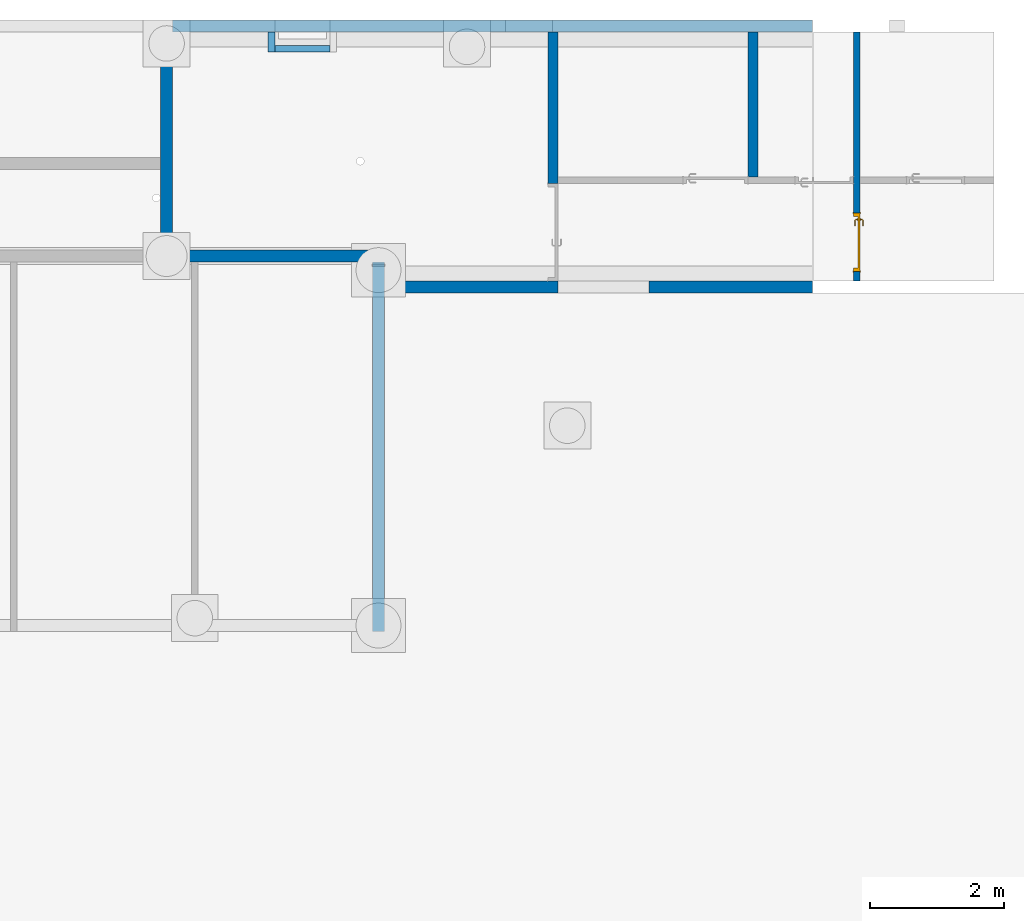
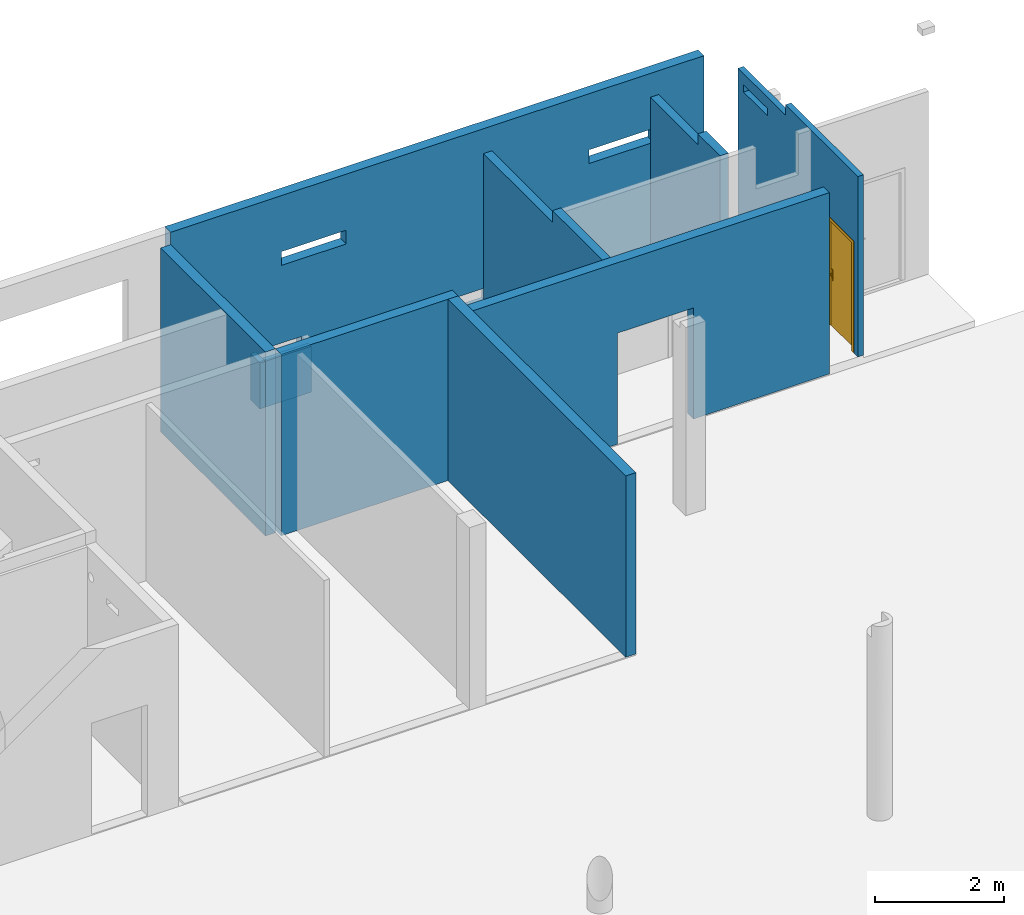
# One storey, part 7 of 29: 10 walls, 1 door, 12 openings.
"""IFC2X3 building model written with IfcOpenShell, lengths in centimetres."""

from ifc_helpers import new_model, entity, si_unit, converted_unit, derived_unit, direction, frame, frame_2d, origin, place, context, subcontext, project, spatial, polyline, rectangle, circle, extrude, clip, bounded_halfspace, faceted_brep, source, transform, mapped, material, material_list, layer, layer_set, layer_usage, type_object, type_shapes, element, fill, save


model = new_model("IFC2X3")

# Units and contexts
model_context = context("Model", 3, precision=0.001, world=origin(), true_north=direction((6.12303176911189e-17, 1.0)))
body_context = subcontext(model_context, "Body", "Model", "MODEL_VIEW")
ifc_project = project(units=[si_unit("LENGTHUNIT", "METRE", prefix="CENTI"), si_unit("AREAUNIT", "SQUARE_METRE"), si_unit("VOLUMEUNIT", "CUBIC_METRE"), converted_unit("PLANEANGLEUNIT", "DEGREE", entity("IfcRatioMeasure", 0.0174532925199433), si_unit("PLANEANGLEUNIT", "RADIAN"), dimensions=[0, 0, 0, 0, 0, 0, 0]), si_unit("MASSUNIT", "GRAM", prefix="KILO"), derived_unit("MASSDENSITYUNIT", [(si_unit("MASSUNIT", "GRAM", prefix="KILO"), 1), (si_unit("LENGTHUNIT", "METRE"), -3)]), si_unit("TIMEUNIT", "SECOND"), si_unit("FREQUENCYUNIT", "HERTZ"), si_unit("THERMODYNAMICTEMPERATUREUNIT", "DEGREE_CELSIUS"), derived_unit("THERMALTRANSMITTANCEUNIT", [(si_unit("MASSUNIT", "GRAM", prefix="KILO"), 1), (si_unit("THERMODYNAMICTEMPERATUREUNIT", "KELVIN"), -1), (si_unit("TIMEUNIT", "SECOND"), -3)]), derived_unit("VOLUMETRICFLOWRATEUNIT", [(si_unit("LENGTHUNIT", "METRE"), 3), (si_unit("TIMEUNIT", "SECOND"), -1)]), si_unit("ELECTRICCURRENTUNIT", "AMPERE"), si_unit("ELECTRICVOLTAGEUNIT", "VOLT"), si_unit("POWERUNIT", "WATT"), si_unit("FORCEUNIT", "NEWTON"), si_unit("ILLUMINANCEUNIT", "LUX"), si_unit("LUMINOUSFLUXUNIT", "LUMEN"), si_unit("LUMINOUSINTENSITYUNIT", "CANDELA"), derived_unit("USERDEFINED", [(si_unit("MASSUNIT", "GRAM", prefix="KILO"), -1), (si_unit("LENGTHUNIT", "METRE"), -2), (si_unit("TIMEUNIT", "SECOND"), 3), (si_unit("LUMINOUSFLUXUNIT", "LUMEN"), 1)]), derived_unit("LINEARVELOCITYUNIT", [(si_unit("LENGTHUNIT", "METRE"), 1), (si_unit("TIMEUNIT", "SECOND"), -1)]), si_unit("PRESSUREUNIT", "PASCAL"), derived_unit("USERDEFINED", [(si_unit("LENGTHUNIT", "METRE"), -2), (si_unit("MASSUNIT", "GRAM", prefix="KILO"), 1), (si_unit("TIMEUNIT", "SECOND"), -2)])], contexts=[model_context])

# Site, building, storey
site_placement = place(None, origin())
site = spatial("IfcSite", under=ifc_project, at=site_placement, Name="Default", CompositionType="ELEMENT")
building_placement = place(site_placement, origin())
building = spatial("IfcBuilding", under=site, at=building_placement, Name="CAGE 03", CompositionType="ELEMENT")
storey_placement = place(building_placement, frame((0.0, 0.0, -26.0)))
storey = spatial("IfcBuildingStorey", under=building, at=storey_placement, Name="+3.74", CompositionType="ELEMENT", Elevation=-26.0000000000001)

# Wall, openings
ifc_material_1 = material(Name="Béton, C25/30")
ifc_layer_1 = layer(ifc_material_1, 18.0)
ifc_layer_set_1 = layer_set([ifc_layer_1], Name="Mur de base:Voile BA 18")
ifc_layer_usage_1 = layer_usage(ifc_layer_set_1, "AXIS2", "POSITIVE", -9.0)
wall_type_1 = type_object("IfcWallType", Name="Mur de base:Voile BA 18", PredefinedType="STANDARD", material=ifc_layer_set_1)
wall_1_placement = place(storey_placement, frame((8787.36582014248, 5284.66066607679, 0.0), z_axis=(0.0, 0.0, 1.0), x_axis=(-1.0, 0.0, 0.0)))
wall_1 = element("IfcWallStandardCase", 1, at=wall_1_placement, inside=storey, type_object=wall_type_1, material=ifc_layer_usage_1, Name="Mur de base:Voile BA 18", ObjectType="Mur de base:Voile BA 18", context=body_context, shape_type="SweptSolid", body=[
    extrude(rectangle(XDim=953.999999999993, YDim=18.0000000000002, at=frame_2d((26.1666666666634, -4.50000000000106), x_axis=(1.0, 0.0))), frame((450.833333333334, 4.49999999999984, 0.0)), (0.0, 0.0, 1.0), 366.0),
])
opening_1_placement = place(storey_placement, frame((8787.36582014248, 5284.66066607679, 0.0), z_axis=(0.0, 0.0, 1.0), x_axis=(-1.0, 0.0, 0.0)))
element("IfcOpeningElement", 2, at=opening_1_placement, cuts=wall_1, Name="Mur de base:Voile BA 18:1", ObjectType="Opening", context=body_context, shape_type="SweptSolid", body=[
    extrude(circle(Radius=4.0, at=frame_2d((0.0, 2.70716782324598e-14), x_axis=(1.0, 0.0))), frame((867.658094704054, -9.0, 162.999461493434), z_axis=(0.0, 1.0, 0.0), x_axis=(1.0, 0.0, 0.0)), (0.0, 0.0, 1.0), 18.0000000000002),
])
opening_2_placement = place(storey_placement, frame((8787.36582014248, 5284.66066607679, 0.0), z_axis=(0.0, 0.0, 1.0), x_axis=(-1.0, 0.0, 0.0)))
element("IfcOpeningElement", 3, at=opening_2_placement, cuts=wall_1, Name="Mur de base:Voile BA 18:2", ObjectType="Opening", context=body_context, shape_type="SweptSolid", body=[
    extrude(rectangle(XDim=30.0, YDim=70.0000000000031, at=frame_2d((0.0, 0.0), x_axis=(0.0, 1.0))), frame((422.500000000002, -9.0, 49.0), z_axis=(0.0, 1.0, 0.0), x_axis=(1.0, 0.0, 0.0)), (0.0, 0.0, 1.0), 18.0000000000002),
])
opening_3_placement = place(storey_placement, frame((8787.36582014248, 5284.66066607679, 0.0), z_axis=(0.0, 0.0, 1.0), x_axis=(-1.0, 0.0, 0.0)))
element("IfcOpeningElement", 4, at=opening_3_placement, cuts=wall_1, Name="Mur de base:Voile BA 18:3", ObjectType="Opening", context=body_context, shape_type="SweptSolid", body=[
    extrude(rectangle(XDim=82.0, YDim=81.9999999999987, at=frame_2d((0.0, 0.0), x_axis=(0.0, 1.0))), frame((760.499999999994, -9.0, 46.0), z_axis=(0.0, 1.0, 0.0), x_axis=(1.0, 0.0, 0.0)), (0.0, 0.0, 1.0), 18.0000000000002),
])
opening_4_placement = place(storey_placement, frame((8787.36582014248, 5284.66066607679, 0.0), z_axis=(0.0, 0.0, 1.0), x_axis=(-1.0, 0.0, 0.0)))
element("IfcOpeningElement", 5, at=opening_4_placement, cuts=wall_1, Name="Mur de base:Voile BA 18:4", ObjectType="Opening", context=body_context, shape_type="SweptSolid", body=[
    extrude(rectangle(XDim=25.9999999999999, YDim=116.0, at=frame_2d((0.0, 8.66862137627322e-13), x_axis=(1.0, 0.0))), frame((148.0, -9.0, 247.0), z_axis=(0.0, 1.0, 0.0), x_axis=(0.0, 0.0, -1.0)), (0.0, 0.0, 1.0), 18.0000000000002),
])
opening_5_placement = place(storey_placement, frame((8787.36582014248, 5284.66066607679, 0.0), z_axis=(0.0, 0.0, 1.0), x_axis=(-1.0, 0.0, 0.0)))
element("IfcOpeningElement", 6, at=opening_5_placement, cuts=wall_1, Name="Mur de base:Voile BA 18:5", ObjectType="Opening", context=body_context, shape_type="SweptSolid", body=[
    extrude(rectangle(XDim=25.9999999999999, YDim=116.0, at=frame_2d((0.0, 8.66862137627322e-13), x_axis=(1.0, 0.0))), frame((698.0, -9.0, 247.0), z_axis=(0.0, 1.0, 0.0), x_axis=(0.0, 0.0, -1.0)), (0.0, 0.0, 1.0), 18.0000000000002),
])

ifc_layer_usage_2 = layer_usage(ifc_layer_set_1, "AXIS2", "NEGATIVE", 9.0)
wall_2_placement = place(storey_placement, frame((8149.36582014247, 4895.6606660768, 0.0)))
wall_2 = element("IfcWallStandardCase", 7, at=wall_2_placement, inside=storey, type_object=wall_type_1, material=ifc_layer_usage_2, Name="Mur de base:Voile BA 18", ObjectType="Mur de base:Voile BA 18", context=body_context, shape_type="SweptSolid", body=[
    extrude(rectangle(XDim=638.000000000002, YDim=17.9999999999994, at=frame_2d((319.000000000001, 4.70734562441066e-14), x_axis=(-1.0, 0.0))), origin(), (0.0, 0.0, 1.0), 343.0),
])
opening_6_placement = place(wall_2_placement, origin())
element("IfcOpeningElement", 8, at=opening_6_placement, cuts=wall_2, Name="Mur de base:Voile BA 18", ObjectType="Opening", context=body_context, shape_type="SweptSolid", body=[
    extrude(rectangle(XDim=207.500000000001, YDim=15.0000000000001, at=frame_2d((0.0, 7.105427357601e-15), x_axis=(0.0, 1.0))), frame((251.0, 9.0, 103.750000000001), z_axis=(0.0, 1.0, 0.0), x_axis=(1.0, 0.0, 0.0)), (0.0, 0.0, 1.0), 144.999999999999),
])
opening_7_placement = place(wall_2_placement, frame((-8149.36582014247, -4895.6606660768, 0.0)))
element("IfcOpeningElement", 9, at=opening_7_placement, cuts=wall_2, Name="Mur de base:Voile BA 18", ObjectType="Opening", context=body_context, shape_type="SweptSolid", body=[
    extrude(rectangle(XDim=210.0, YDim=136.0, at=frame_2d((-7.105427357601e-15, 0.0), x_axis=(1.0, 0.0))), frame((8475.86582014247, 4734.2606660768, 105.0), z_axis=(0.0, 1.0, 0.0), x_axis=(0.0, 0.0, 1.0)), (0.0, 0.0, 1.0), 304.8),
])

# Walls
ifc_layer_usage_3 = layer_usage(ifc_layer_set_1, "AXIS2", "NEGATIVE", 9.0)
wall_3_placement = place(storey_placement, frame((8140.36582014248, 4932.6606660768, 0.0), z_axis=(0.0, 0.0, 1.0), x_axis=(0.0, -1.0, 0.0)))
element("IfcWallStandardCase", 10, at=wall_3_placement, inside=storey, type_object=wall_type_1, material=ifc_layer_usage_3, Name="Mur de base:Voile BA 18", ObjectType="Mur de base:Voile BA 18", context=body_context, shape_type="SweptSolid", body=[
    extrude(rectangle(XDim=550.999999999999, YDim=17.9999999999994, at=frame_2d((275.499999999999, 0.0), x_axis=(-1.0, 0.0))), origin(), (0.0, 0.0, 1.0), 343.0),
])
ifc_layer_usage_4 = layer_usage(ifc_layer_set_1, "AXIS2", "POSITIVE", -9.0)
wall_4_placement = place(storey_placement, frame((7824.36582014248, 4950.6606660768, -5.0), z_axis=(0.0, 0.0, 1.0), x_axis=(0.0, 1.0, 0.0)))
element("IfcWallStandardCase", 11, at=wall_4_placement, inside=storey, type_object=wall_type_1, material=ifc_layer_usage_4, Name="Mur de base:Voile BA 18", ObjectType="Mur de base:Voile BA 18", context=body_context, shape_type="SweptSolid", body=[
    extrude(rectangle(XDim=325.000000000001, YDim=17.9999999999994, at=frame_2d((162.500000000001, -5.05373520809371e-13), x_axis=(-1.0, 0.0))), origin(), (0.0, 0.0, 1.0), 348.0),
])
ifc_layer_usage_5 = layer_usage(ifc_layer_set_1, "AXIS2", "NEGATIVE", 9.0)
wall_5_placement = place(storey_placement, frame((7833.36582014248, 4941.6606660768, 0.0)))
element("IfcWallStandardCase", 12, at=wall_5_placement, inside=storey, type_object=wall_type_1, material=ifc_layer_usage_5, Name="Mur de base:Voile BA 18", ObjectType="Mur de base:Voile BA 18", context=body_context, shape_type="SweptSolid", body=[
    extrude(rectangle(XDim=315.999999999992, YDim=17.9999999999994, at=frame_2d((157.999999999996, 2.19380069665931e-13), x_axis=(-1.0, 0.0))), origin(), (0.0, 0.0, 1.0), 343.0),
])

# Wall, openings, door
ifc_material_2 = material(Name="Bloc béton")
ifc_layer_2 = layer(ifc_material_2, 10.0)
ifc_layer_set_2 = layer_set([ifc_layer_2], Name="Mur de base:Int. Parpaing 100 mm")
ifc_layer_usage_6 = layer_usage(ifc_layer_set_2, "AXIS2", "NEGATIVE", 5.0)
wall_type_2 = type_object("IfcWallType", Name="Mur de base:Int. Parpaing 100 mm", PredefinedType="STANDARD", material=ifc_layer_set_2)
wall_6_placement = place(storey_placement, frame((8853.36582014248, 5275.6606660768, 0.0), z_axis=(0.0, 0.0, 1.0), x_axis=(0.0, -1.0, 0.0)))
wall_6 = element("IfcWallStandardCase", 13, at=wall_6_placement, inside=storey, type_object=wall_type_2, material=ifc_layer_usage_6, Name="Mur de base:Int. Parpaing 100 mm", ObjectType="Mur de base:Int. Parpaing 100 mm", context=body_context, shape_type="Clipping", body=[
    clip(clip(extrude(rectangle(XDim=371.000000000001, YDim=10.0000000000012, at=frame_2d((185.500000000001, 0.0), x_axis=(-1.0, 0.0))), origin(), (0.0, 0.0, 1.0), 341.0), bounded_halfspace(frame((147.0, -5.0, 321.0), z_axis=(0.0, 0.0, -1.0), x_axis=(1.0, 0.0, 0.0)), True, frame((147.0, -5.0, 321.0), z_axis=(0.0, 0.0, -1.0), x_axis=(1.0, 0.0, 0.0)), polyline([(0.0, 0.0), (-147.0, 0.0), (-147.0, -10.0), (0.0, -10.0), (0.0, 0.0)]))), bounded_halfspace(frame((147.0, 5.0, 321.0), z_axis=(1.0, 0.0, 0.0), x_axis=(0.0, 0.0, 1.0)), True, frame((147.0, 5.0, 321.0), z_axis=(1.0, 0.0, 0.0), x_axis=(0.0, 0.0, 1.0)), polyline([(0.0, 0.0), (20.0, 0.0), (20.0, 10.0), (0.0, 10.0), (0.0, 0.0)]))),
])
opening_8_placement = place(storey_placement, frame((8853.36582014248, 5275.6606660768, 0.0), z_axis=(0.0, 0.0, 1.0), x_axis=(0.0, -1.0, 0.0)))
element("IfcOpeningElement", 14, at=opening_8_placement, cuts=wall_6, Name="Mur de base:Int. Parpaing 100 mm:1", ObjectType="Opening", context=body_context, shape_type="SweptSolid", body=[
    extrude(rectangle(XDim=9.99999999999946, YDim=74.0000000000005, at=frame_2d((1.73283609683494e-12, 0.0), x_axis=(1.0, 0.0))), frame((53.9474091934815, 0.0, 286.090000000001), z_axis=(0.0, 0.0, 1.0), x_axis=(0.0, 1.0, 0.0)), (0.0, 0.0, 1.0), 14.0),
])
opening_9_placement = place(wall_6_placement, origin())
element("IfcOpeningElement", 15, at=opening_9_placement, cuts=wall_6, Name="Mur de base:Int. Parpaing 100 mm", ObjectType="Opening", context=body_context, shape_type="SweptSolid", body=[
    extrude(rectangle(XDim=210.000000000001, YDim=10.0000000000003, at=frame_2d((-4.33431068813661e-13, -7.105427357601e-15), x_axis=(0.0, 1.0))), frame((221.0, -92.0, 105.0), z_axis=(0.0, 1.0, 0.0), x_axis=(-1.0, 0.0, 0.0)), (0.0, 0.0, 1.0), 86.9999999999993),
])
opening_10_placement = place(wall_6_placement, frame((270.0, -5.0, 0.0)))
opening_10 = element("IfcOpeningElement", 16, at=opening_10_placement, cuts=wall_6, Name="Int. Simple:HB83:1", ObjectType="Opening", context=body_context, shape_type="SweptSolid", body=[
    extrude(rectangle(XDim=210.000000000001, YDim=86.9999999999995, at=frame_2d((105.000000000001, 43.4999999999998), x_axis=(1.0, 0.0))), frame((0.0, 0.0, 0.0), z_axis=(0.0, 1.0, 0.0), x_axis=(0.0, 0.0, 1.0)), (0.0, 0.0, 1.0), 10.0),
])
ifc_material_3 = material(Name="Finition Peinture - Blanc satiné")
ifc_material_4 = material(Name="Bois - Panneau de porte")
ifc_material_5 = material(Name="Bois - Cadre de porte")
ifc_material_list_1 = material_list([ifc_material_3, ifc_material_4, ifc_material_5])
ifc_material_list_2 = material_list([ifc_material_3, ifc_material_4, ifc_material_5])
door_style = type_object("IfcDoorStyle", Name="HB83", ConstructionType="NOTDEFINED", OperationType="SINGLE_SWING_RIGHT", ParameterTakesPrecedence=False, Sizeable=False, material=ifc_material_list_2)
shared_shape = source(origin(), body_context, "Body", "Brep", [
    faceted_brep([(86.5000000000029, -0.500000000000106, 87.0), (86.5000000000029, -0.500000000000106, 108.0), (85.535276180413, -0.500000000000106, 108.399601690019), (84.5000000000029, -0.500000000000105, 108.535898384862), (83.4647238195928, -0.500000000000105, 108.399601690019), (82.500000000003, -0.500000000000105, 108.0), (82.5000000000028, -0.500000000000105, 87.0), (83.4647238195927, -0.500000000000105, 86.6003983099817), (84.5000000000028, -0.500000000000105, 86.464101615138), (85.5352761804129, -0.500000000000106, 86.6003983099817), (86.5000000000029, 0.0, 108.0), (86.5000000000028, 0.0, 87.0), (85.5352761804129, 0.0, 86.6003983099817), (84.5000000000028, 0.0, 86.464101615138), (83.4647238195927, 0.0, 86.6003983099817), (82.5000000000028, 0.0, 87.0), (82.500000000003, 0.0, 108.0), (83.4647238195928, 0.0, 108.399601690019), (84.5000000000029, 0.0, 108.535898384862), (85.535276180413, 0.0, 108.399601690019)], [[[0, 1, 2, 3, 4, 5, 6, 7, 8, 9]], [[10, 11, 12, 13, 14, 15, 16, 17, 18, 19]], [[9, 12, 11, 0]], [[8, 13, 12, 9]], [[7, 14, 13, 8]], [[7, 6, 15, 14]], [[15, 6, 5, 16]], [[4, 17, 16, 5]], [[3, 18, 17, 4]], [[2, 19, 18, 3]], [[2, 1, 10, 19]], [[11, 10, 1, 0]]]),
    faceted_brep([(86.5000000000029, 3.0, 87.0), (86.5000000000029, 3.0, 108.0), (85.535276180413, 3.0, 108.399601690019), (84.500000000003, 3.0, 108.535898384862), (83.4647238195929, 3.0, 108.399601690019), (82.500000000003, 3.0, 108.0), (82.5000000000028, 3.0, 87.0), (83.4647238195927, 3.0, 86.6003983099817), (84.5000000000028, 3.0, 86.464101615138), (85.5352761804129, 3.0, 86.6003983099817), (84.500000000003, 3.49999999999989, 108.535898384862), (85.535276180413, 3.49999999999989, 108.399601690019), (86.5000000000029, 3.49999999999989, 108.0), (86.5000000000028, 3.49999999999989, 87.0), (85.5352761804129, 3.49999999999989, 86.6003983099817), (84.5000000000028, 3.49999999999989, 86.464101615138), (83.4647238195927, 3.49999999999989, 86.6003983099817), (82.5000000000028, 3.49999999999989, 87.0), (82.500000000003, 3.49999999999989, 108.0), (83.4647238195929, 3.49999999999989, 108.399601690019)], [[[0, 1, 2, 3, 4, 5, 6, 7, 8, 9]], [[10, 11, 12, 13, 14, 15, 16, 17, 18, 19]], [[4, 19, 18, 5]], [[3, 10, 19, 4]], [[2, 11, 10, 3]], [[2, 1, 12, 11]], [[13, 12, 1, 0]], [[9, 14, 13, 0]], [[8, 15, 14, 9]], [[7, 16, 15, 8]], [[7, 6, 17, 16]], [[17, 6, 5, 18]]]),
    faceted_brep([(84.297470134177, -0.50000000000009, 100.778044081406), (84.7025298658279, -0.500000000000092, 100.778044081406), (85.1000000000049, -0.500000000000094, 100.699999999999), (85.1000000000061, -0.500000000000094, 99.299999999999), (84.702529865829, -0.500000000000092, 99.2219559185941), (84.297470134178, -0.50000000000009, 99.2219559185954), (83.9000000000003, -0.500000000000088, 99.3000000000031), (83.9000000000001, -0.500000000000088, 100.7), (84.7025298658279, -3.1004575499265, 100.778044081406), (85.1000000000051, -3.26509507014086, 100.7), (84.297470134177, -2.93267631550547, 100.778044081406), (82.9298602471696, -4.30028620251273, 100.778044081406), (83.0976414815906, -4.70534593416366, 100.778044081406), (83.9000000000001, -2.76803879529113, 100.7), (83.9000000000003, -2.76803879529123, 99.3000000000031), (84.297470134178, -2.93267631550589, 99.2219559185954), (84.702529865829, -3.10045754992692, 99.2219559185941), (83.097641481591, -4.70534593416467, 99.2219559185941), (82.92986024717, -4.30028620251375, 99.2219559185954), (85.1000000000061, -3.26509507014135, 99.299999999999), (83.2622790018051, -5.10281606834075, 100.7), (82.7652227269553, -3.90281606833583, 100.7), (82.7652227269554, -3.90281606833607, 99.3000000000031), (83.2622790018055, -5.10281606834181, 99.299999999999), (74.4981359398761, -5.1028160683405, 100.7), (74.4981359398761, -4.7053459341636, 100.778044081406), (74.4981359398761, -4.30028620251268, 100.778044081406), (74.4981359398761, -3.90281606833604, 100.699999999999), (74.4981359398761, -3.90281606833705, 99.3000000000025), (74.4981359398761, -4.30028620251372, 99.2219559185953), (74.4981359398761, -4.70534593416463, 99.2219559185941), (74.4981359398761, -5.10281606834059, 99.2999999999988), (78.7139980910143, -4.50281606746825, 100.78786867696), (79.2692302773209, -5.10281606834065, 100.7), (78.6316793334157, -3.90281606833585, 100.7), (78.6316793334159, -3.90281606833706, 99.3000000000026), (78.7139981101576, -4.50281607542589, 99.2121313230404), (79.2692299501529, -5.10281606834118, 99.2999999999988)], [[[0, 1, 2, 3, 4, 5, 6, 7]], [[2, 1, 8, 9]], [[1, 0, 10, 11, 12, 8]], [[0, 7, 13, 10]], [[14, 13, 7, 6]], [[5, 15, 14, 6]], [[5, 4, 16, 17, 18, 15]], [[3, 19, 16, 4]], [[9, 19, 3, 2]], [[9, 8, 12, 20]], [[10, 13, 21, 11]], [[22, 21, 13, 14]], [[14, 15, 18, 22]], [[16, 19, 23, 17]], [[20, 23, 19, 9]], [[24, 25, 26, 27, 28, 29, 30, 31]], [[32, 25, 33]], [[33, 25, 24]], [[33, 20, 12]], [[11, 34, 32]], [[34, 11, 21]], [[27, 26, 34]], [[32, 26, 25]], [[32, 34, 26]], [[32, 33, 12]], [[11, 32, 12]], [[21, 22, 35, 28, 27, 34]], [[36, 29, 35]], [[30, 36, 37]], [[18, 35, 22]], [[29, 28, 35]], [[30, 37, 31]], [[37, 17, 23]], [[36, 17, 37]], [[36, 18, 17]], [[36, 35, 18]], [[29, 36, 30]], [[23, 20, 33, 24, 31, 37]]]),
    faceted_brep([(84.2974701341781, 3.49999999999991, 99.2219559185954), (84.702529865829, 3.49999999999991, 99.2219559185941), (85.1000000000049, 3.49999999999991, 99.2999999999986), (85.1000000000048, 3.49999999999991, 100.7), (84.7025298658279, 3.49999999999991, 100.778044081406), (84.297470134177, 3.49999999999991, 100.778044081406), (83.9000000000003, 3.49999999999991, 100.7), (83.9000000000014, 3.49999999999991, 99.3000000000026), (83.9000000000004, 5.74852045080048, 100.7), (83.9000000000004, 5.74852045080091, 99.3000000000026), (84.2974701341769, 5.91315797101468, 100.778044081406), (84.7025298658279, 6.08093920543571, 100.778044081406), (83.0838906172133, 7.69957845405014, 100.778044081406), (82.9161093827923, 7.29451872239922, 100.778044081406), (85.1000000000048, 6.24557672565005, 100.7), (85.1000000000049, 6.2455767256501, 99.2999999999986), (84.702529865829, 6.08093920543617, 99.2219559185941), (84.2974701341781, 5.91315797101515, 99.2219559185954), (82.9161093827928, 7.29451872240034, 99.2219559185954), (83.0838906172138, 7.69957845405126, 99.2219559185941), (82.7514718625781, 6.89704858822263, 100.7), (82.7514718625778, 6.89704858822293, 99.3000000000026), (83.2485281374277, 8.09704858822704, 100.7), (83.2485281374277, 8.09704858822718, 99.2999999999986), (74.4954216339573, 7.29451872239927, 100.778044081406), (74.4954216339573, 7.6995784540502, 100.778044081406), (74.4954216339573, 8.0970485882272, 100.7), (74.4954216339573, 8.09704858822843, 99.299999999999), (74.4954216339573, 7.6995784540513, 99.2219559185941), (74.4954216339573, 7.29451872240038, 99.2219559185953), (74.4954216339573, 6.89704858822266, 99.3000000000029), (74.4954216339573, 6.89704858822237, 100.7), (78.6234467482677, 6.89704858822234, 100.7), (78.6234479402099, 6.89704858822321, 99.3000000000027), (78.7057655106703, 7.49704858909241, 100.78786867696), (79.255479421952, 8.09704858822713, 100.7), (79.2554794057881, 8.09704858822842, 99.299999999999), (78.7057654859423, 7.49704858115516, 99.2121313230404)], [[[0, 1, 2, 3, 4, 5, 6, 7]], [[8, 9, 7, 6]], [[5, 10, 8, 6]], [[5, 4, 11, 12, 13, 10]], [[3, 14, 11, 4]], [[14, 3, 2, 15]], [[2, 1, 16, 15]], [[1, 0, 17, 18, 19, 16]], [[0, 7, 9, 17]], [[20, 21, 9, 8]], [[8, 10, 13, 20]], [[14, 22, 12, 11]], [[23, 22, 14, 15]], [[15, 16, 19, 23]], [[17, 9, 21, 18]], [[24, 25, 26, 27, 28, 29, 30, 31]], [[20, 32, 31, 30, 33, 21]], [[34, 24, 32]], [[25, 34, 35]], [[13, 32, 20]], [[24, 31, 32]], [[25, 35, 26]], [[35, 12, 22]], [[34, 12, 35]], [[34, 13, 12]], [[34, 32, 13]], [[24, 34, 25]], [[22, 23, 36, 27, 26, 35]], [[37, 28, 36]], [[36, 28, 27]], [[36, 23, 19]], [[18, 33, 37]], [[33, 18, 21]], [[30, 29, 33]], [[37, 29, 28]], [[37, 33, 29]], [[37, 36, 19]], [[18, 37, 19]]]),
    faceted_brep([(90.5000000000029, 3.0, 206.5), (90.5000000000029, 3.0, 0.0), (10.5000000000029, 3.0, 0.0), (10.5000000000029, 3.0, 206.5), (90.5000000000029, 0.0, 206.5), (10.5000000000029, 0.0, 206.5), (10.5000000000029, 0.0, 0.0), (90.5000000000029, 0.0, 0.0)], [[[0, 1, 2, 3]], [[4, 5, 6, 7]], [[3, 5, 4, 0]], [[2, 6, 5, 3]], [[1, 7, 6, 2]], [[0, 4, 7, 1]]]),
    faceted_brep([(94.0, 0.0, 0.0), (90.5000000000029, 0.0, 0.0), (90.5000000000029, 3.0, 0.0), (89.0, 3.0, 0.0), (89.0, 10.0, 0.0), (94.0, 10.0, 0.0), (94.0, 10.0, 210.0), (94.0, 0.0, 210.0), (89.0, 10.0, 205.0), (12.0, 10.0, 205.0), (12.0, 10.0, 0.0), (7.0, 10.0, 0.0), (7.0, 10.0, 210.0), (89.0, 3.0, 205.0), (90.5000000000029, 3.0, 206.5), (10.5000000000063, 3.0, 206.5), (10.5000000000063, 3.0, 0.0), (12.0, 3.0, 0.0), (12.0, 3.0, 205.0), (90.5000000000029, 0.0, 206.5), (7.0, 0.0, 210.0), (7.0, 0.0, 0.0), (10.5000000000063, 0.0, 0.0), (10.5000000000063, 0.0, 206.5)], [[[0, 1, 2, 3, 4, 5]], [[5, 6, 7, 0]], [[4, 8, 9, 10, 11, 12, 6, 5]], [[3, 13, 8, 4]], [[2, 14, 15, 16, 17, 18, 13, 3]], [[1, 19, 14, 2]], [[0, 7, 20, 21, 22, 23, 19, 1]], [[12, 11, 21, 20]], [[21, 11, 10, 17, 16, 22]], [[18, 17, 10, 9]], [[23, 22, 16, 15]], [[6, 12, 20, 7]], [[13, 18, 9, 8]], [[19, 23, 15, 14]]]),
    faceted_brep([(92.5000000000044, 10.0, 0.0), (92.5000000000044, 10.5000000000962, 0.0), (95.5000000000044, 10.5000000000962, 0.0), (95.5000000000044, 10.0, 0.0), (95.5000000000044, 10.0, 211.500000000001), (5.50000000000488, 10.0, 211.500000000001), (5.50000000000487, 10.0, 0.0), (8.50000000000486, 10.0, 0.0), (8.50000000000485, 10.0, 208.500000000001), (92.5000000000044, 10.0, 208.500000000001), (95.5000000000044, 10.5000000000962, 211.500000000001), (92.5000000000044, 10.5000000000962, 208.500000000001), (8.50000000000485, 10.5000000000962, 208.500000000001), (8.50000000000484, 10.5000000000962, 0.0), (5.50000000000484, 10.5000000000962, 0.0), (5.50000000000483, 10.5000000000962, 211.500000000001)], [[[0, 1, 2, 3]], [[3, 4, 5, 6, 7, 8, 9, 0]], [[2, 10, 4, 3]], [[1, 11, 12, 13, 14, 15, 10, 2]], [[0, 9, 11, 1]], [[7, 6, 14, 13]], [[8, 7, 13, 12]], [[15, 14, 6, 5]], [[10, 15, 5, 4]], [[9, 8, 12, 11]]]),
    faceted_brep([(95.5000000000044, -0.5, 0.0), (95.5000000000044, -0.5, 211.500000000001), (5.50000000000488, -0.5, 211.500000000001), (5.50000000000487, -0.5, 0.0), (8.50000000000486, -0.5, 0.0), (8.50000000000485, -0.5, 208.500000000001), (92.5000000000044, -0.5, 208.500000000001), (92.5000000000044, -0.5, 0.0), (95.5000000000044, 0.0, 0.0), (95.5000000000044, 0.0, 211.500000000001), (92.5000000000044, 0.0, 0.0), (92.5000000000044, 0.0, 208.500000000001), (8.50000000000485, 0.0, 208.500000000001), (8.50000000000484, 0.0, 0.0), (5.50000000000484, 0.0, 0.0), (5.50000000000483, 0.0, 211.500000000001)], [[[0, 1, 2, 3, 4, 5, 6, 7]], [[8, 9, 1, 0]], [[10, 11, 12, 13, 14, 15, 9, 8]], [[7, 6, 11, 10]], [[5, 4, 13, 12]], [[15, 14, 3, 2]], [[9, 15, 2, 1]], [[6, 5, 12, 11]], [[4, 3, 14, 13]], [[7, 10, 8, 0]]]),
])
type_shapes(door_style, [shared_shape])
door_placement = place(opening_10_placement, frame((94.0, 10.0, 0.0), z_axis=(0.0, 0.0, 1.0), x_axis=(-1.0, 0.0, 0.0)))
door = element("IfcDoor", 17, at=door_placement, inside=storey, type_object=door_style, material=ifc_material_list_1, Name="Int. Simple:HB83", ObjectType="HB83", OverallHeight=210.000000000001, OverallWidth=86.9999999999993, context=body_context, shape_type="MappedRepresentation", body=[
    mapped(shared_shape, transform((0.0, 0.0, 0.0), scale=1.0)),
])
fill(opening_10, door)

# Walls
ifc_layer_usage_7 = layer_usage(ifc_layer_set_2, "AXIS2", "NEGATIVE", 5.0)
wall_7_placement = place(storey_placement, frame((7980.86582014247, 5275.6606660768, 0.0), z_axis=(0.0, 0.0, 1.0), x_axis=(0.0, -1.0, 0.0)))
element("IfcWallStandardCase", 18, at=wall_7_placement, inside=storey, type_object=wall_type_2, material=ifc_layer_usage_7, Name="Mur de base:Int. Parpaing 100 mm", ObjectType="Mur de base:Int. Parpaing 100 mm", context=body_context, shape_type="SweptSolid", body=[
    extrude(rectangle(XDim=30.0000000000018, YDim=10.0000000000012, at=frame_2d((15.0000000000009, 0.0), x_axis=(-1.0, 0.0))), origin(), (0.0, 0.0, 1.0), 87.0),
])
ifc_layer_usage_8 = layer_usage(ifc_layer_set_2, "AXIS2", "NEGATIVE", 5.0)
wall_8_placement = place(storey_placement, frame((7985.86582014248, 5250.6606660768, 0.0)))
element("IfcWallStandardCase", 19, at=wall_8_placement, inside=storey, type_object=wall_type_2, material=ifc_layer_usage_8, Name="Mur de base:Int. Parpaing 100 mm", ObjectType="Mur de base:Int. Parpaing 100 mm", context=body_context, shape_type="SweptSolid", body=[
    extrude(rectangle(XDim=82.0000000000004, YDim=9.99999999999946, at=frame_2d((41.0000000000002, 0.0), x_axis=(-1.0, 0.0))), origin(), (0.0, 0.0, 1.0), 87.0),
])

# Wall, openings
ifc_layer_3 = layer(ifc_material_2, 15.0)
ifc_layer_set_3 = layer_set([ifc_layer_3], Name="Mur de base:Int. Parpaing 150 mm")
ifc_layer_usage_9 = layer_usage(ifc_layer_set_3, "AXIS2", "NEGATIVE", 7.5)
wall_type_3 = type_object("IfcWallType", Name="Mur de base:Int. Parpaing 150 mm", PredefinedType="STANDARD", material=ifc_layer_set_3)
wall_9_placement = place(storey_placement, frame((8400.36582014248, 5275.6606660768, 0.0), z_axis=(0.0, 0.0, 1.0), x_axis=(0.0, -1.0, 0.0)))
wall_9 = element("IfcWallStandardCase", 20, at=wall_9_placement, inside=storey, type_object=wall_type_3, material=ifc_layer_usage_9, Name="Mur de base:Int. Parpaing 150 mm", ObjectType="Mur de base:Int. Parpaing 150 mm", context=body_context, shape_type="SweptSolid", body=[
    extrude(rectangle(XDim=370.999999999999, YDim=15.0000000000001, at=frame_2d((185.499999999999, 0.0), x_axis=(-1.0, 0.0))), origin(), (0.0, 0.0, 1.0), 341.0),
])
opening_11_placement = place(wall_9_placement, origin())
element("IfcOpeningElement", 21, at=opening_11_placement, cuts=wall_9, Name="Mur de base:Int. Parpaing 150 mm", ObjectType="Opening", context=body_context, shape_type="SweptSolid", body=[
    extrude(rectangle(XDim=22.0, YDim=222.999999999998, at=frame_2d((0.0, 1.62536650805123e-13), x_axis=(0.0, 1.0))), frame((102.5, 7.50000000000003, 330.0), z_axis=(0.0, -1.0, 0.0), x_axis=(-1.0, 0.0, 0.0)), (0.0, 0.0, 1.0), 15.0),
])
opening_12_placement = place(wall_9_placement, frame((226.0, -7.5, 0.0)))
element("IfcOpeningElement", 22, at=opening_12_placement, cuts=wall_9, Name="Int. Tierce:PP (1.23m x 2.04m):1", ObjectType="Opening", context=body_context, shape_type="SweptSolid", body=[
    extrude(rectangle(XDim=207.500000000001, YDim=145.0, at=frame_2d((103.750000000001, 72.4999999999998), x_axis=(1.0, 0.0))), frame((0.0, 0.0, 0.0), z_axis=(0.0, 1.0, 0.0), x_axis=(0.0, 0.0, 1.0)), (0.0, 0.0, 1.0), 15.0),
])

# Wall
ifc_layer_usage_10 = layer_usage(ifc_layer_set_3, "AXIS2", "NEGATIVE", 7.5)
wall_10_placement = place(storey_placement, frame((8698.86582014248, 5275.6606660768, 0.0), z_axis=(0.0, 0.0, 1.0), x_axis=(0.0, -1.0, 0.0)))
element("IfcWallStandardCase", 23, at=wall_10_placement, inside=storey, type_object=wall_type_3, material=ifc_layer_usage_10, Name="Mur de base:Int. Parpaing 150 mm", ObjectType="Mur de base:Int. Parpaing 150 mm", context=body_context, shape_type="Clipping", body=[
    clip(clip(extrude(rectangle(XDim=215.999999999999, YDim=15.0000000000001, at=frame_2d((107.999999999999, 0.0), x_axis=(-1.0, 0.0))), origin(), (0.0, 0.0, 1.0), 341.0), bounded_halfspace(frame((147.0, -7.50000000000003, 321.0), z_axis=(0.0, 0.0, -1.0), x_axis=(1.0, 0.0, 0.0)), True, frame((147.0, -7.50000000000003, 321.0), z_axis=(0.0, 0.0, -1.0), x_axis=(1.0, 0.0, 0.0)), polyline([(0.0, 0.0), (-147.0, 0.0), (-147.0, -15.0), (0.0, -15.0), (0.0, 0.0)]))), bounded_halfspace(frame((147.0, 7.50000000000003, 321.0), z_axis=(1.0, 0.0, 0.0), x_axis=(0.0, 0.0, 1.0)), True, frame((147.0, 7.50000000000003, 321.0), z_axis=(1.0, 0.0, 0.0), x_axis=(0.0, 0.0, 1.0)), polyline([(0.0, 0.0), (20.0, 0.0), (20.0, 15.0), (0.0, 15.0), (0.0, 0.0)]))),
])

save(model, "model.ifc")
